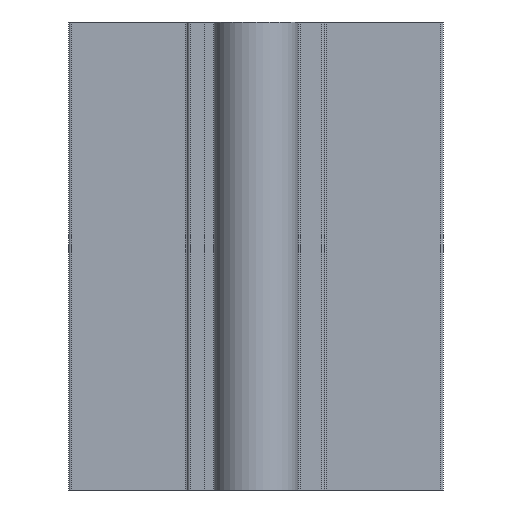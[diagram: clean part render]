
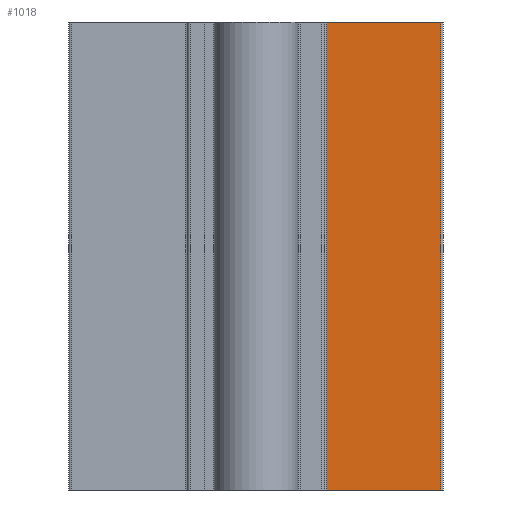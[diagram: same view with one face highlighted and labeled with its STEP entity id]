
A CAD part, left-side view. The second image highlights one B-rep face of the part: STEP entity #1018.
In plain terms, the highlighted planar face has unit normal (-1, 0, 0).
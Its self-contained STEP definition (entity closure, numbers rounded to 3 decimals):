
#960=CARTESIAN_POINT('',(60.217,15.217,100.0));
#961=VERTEX_POINT('',#960);
#969=CARTESIAN_POINT('',(60.217,15.217,0.0));
#970=VERTEX_POINT('',#969);
#971=CARTESIAN_POINT('',(60.217,15.217,0.0));
#972=DIRECTION('',(0.0,0.0,1.0));
#973=VECTOR('',#972,100.0);
#974=LINE('',#971,#973);
#975=EDGE_CURVE('',#970,#961,#974,.T.);
#988=CARTESIAN_POINT('',(60.217,15.217,0.0));
#989=DIRECTION('',(-1.0,0.0,0.0));
#990=DIRECTION('',(0.0,0.0,1.0));
#991=AXIS2_PLACEMENT_3D('',#988,#989,#990);
#992=PLANE('',#991);
#993=CARTESIAN_POINT('',(60.217,39.617,100.0));
#994=VERTEX_POINT('',#993);
#995=CARTESIAN_POINT('',(60.217,15.217,100.0));
#996=DIRECTION('',(0.0,1.0,0.0));
#997=VECTOR('',#996,24.4);
#998=LINE('',#995,#997);
#999=EDGE_CURVE('',#961,#994,#998,.T.);
#1000=ORIENTED_EDGE('',*,*,#999,.T.);
#1001=CARTESIAN_POINT('',(60.217,39.617,0.0));
#1002=VERTEX_POINT('',#1001);
#1003=CARTESIAN_POINT('',(60.217,39.617,0.0));
#1004=DIRECTION('',(0.0,0.0,1.0));
#1005=VECTOR('',#1004,100.0);
#1006=LINE('',#1003,#1005);
#1007=EDGE_CURVE('',#1002,#994,#1006,.T.);
#1008=ORIENTED_EDGE('',*,*,#1007,.F.);
#1009=CARTESIAN_POINT('',(60.217,15.217,0.0));
#1010=DIRECTION('',(0.0,1.0,0.0));
#1011=VECTOR('',#1010,24.4);
#1012=LINE('',#1009,#1011);
#1013=EDGE_CURVE('',#970,#1002,#1012,.T.);
#1014=ORIENTED_EDGE('',*,*,#1013,.F.);
#1015=ORIENTED_EDGE('',*,*,#975,.T.);
#1016=EDGE_LOOP('',(#1000,#1008,#1014,#1015));
#1017=FACE_OUTER_BOUND('',#1016,.T.);
#1018=ADVANCED_FACE('',(#1017),#992,.T.);
